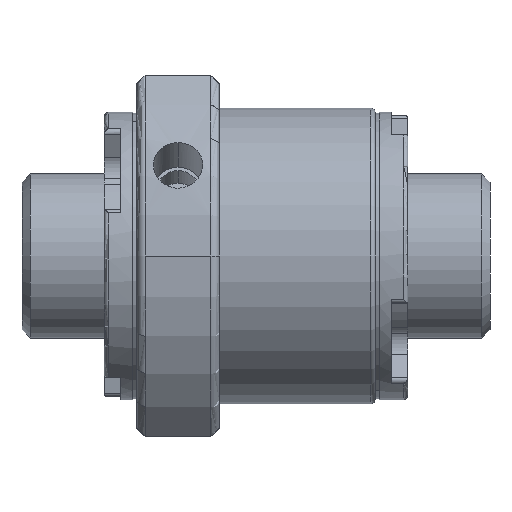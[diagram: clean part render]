
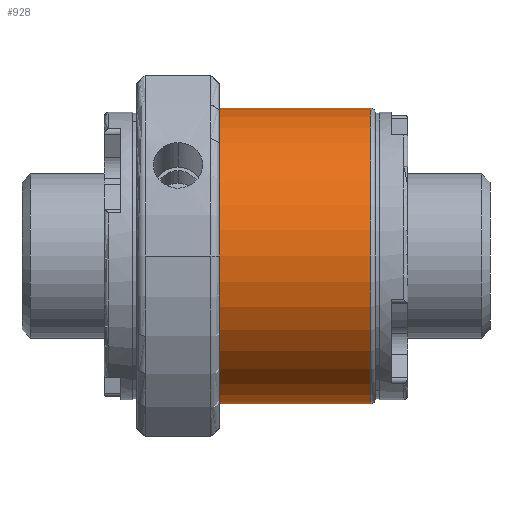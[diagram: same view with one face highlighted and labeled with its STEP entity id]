
A CAD part, front view. The second image highlights one B-rep face of the part: STEP entity #928.
In plain terms, the highlighted cylindrical face has radius 18 mm (diameter 36 mm), a partial arc.
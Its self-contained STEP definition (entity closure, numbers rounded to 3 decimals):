
#172 = ORIENTED_EDGE ( 'NONE', *, *, #836, .T. ) ;
#197 = CIRCLE ( 'NONE', #771, 18. ) ;
#446 = DIRECTION ( 'NONE',  ( -1., 0., 0. ) ) ;
#555 = AXIS2_PLACEMENT_3D ( 'NONE', #3139, #7374, #6481 ) ;
#771 = AXIS2_PLACEMENT_3D ( 'NONE', #4617, #2839, #1667 ) ;
#836 = EDGE_CURVE ( 'NONE', #1782, #6226, #2879, .T. ) ;
#928 = ADVANCED_FACE ( 'NONE', ( #4757 ), #4953, .T. ) ;
#1017 = CARTESIAN_POINT ( 'NONE',  ( 32.5, 0., -18. ) ) ;
#1667 = DIRECTION ( 'NONE',  ( 0., -1., 0. ) ) ;
#1740 = ORIENTED_EDGE ( 'NONE', *, *, #4995, .T. ) ;
#1756 = VECTOR ( 'NONE', #7084, 1000. ) ;
#1782 = VERTEX_POINT ( 'NONE', #4136 ) ;
#2437 = ORIENTED_EDGE ( 'NONE', *, *, #7547, .F. ) ;
#2839 = DIRECTION ( 'NONE',  ( -1., 0., 0. ) ) ;
#2879 = LINE ( 'NONE', #6795, #4000 ) ;
#3015 = EDGE_LOOP ( 'NONE', ( #4810, #1740, #172, #2437 ) ) ;
#3137 = VERTEX_POINT ( 'NONE', #1017 ) ;
#3139 = CARTESIAN_POINT ( 'NONE',  ( 0., 0., 0. ) ) ;
#3698 = AXIS2_PLACEMENT_3D ( 'NONE', #5179, #446, #5274 ) ;
#3733 = CIRCLE ( 'NONE', #3698, 18. ) ;
#4000 = VECTOR ( 'NONE', #6374, 1000. ) ;
#4136 = CARTESIAN_POINT ( 'NONE',  ( 32.5, 0., 18. ) ) ;
#4523 = VERTEX_POINT ( 'NONE', #5978 ) ;
#4617 = CARTESIAN_POINT ( 'NONE',  ( 14., 0., 0. ) ) ;
#4757 = FACE_OUTER_BOUND ( 'NONE', #3015, .T. ) ;
#4810 = ORIENTED_EDGE ( 'NONE', *, *, #6883, .F. ) ;
#4953 = CYLINDRICAL_SURFACE ( 'NONE', #555, 18. ) ;
#4965 = LINE ( 'NONE', #5819, #1756 ) ;
#4995 = EDGE_CURVE ( 'NONE', #3137, #1782, #3733, .T. ) ;
#5132 = CARTESIAN_POINT ( 'NONE',  ( 14., 0., 18. ) ) ;
#5179 = CARTESIAN_POINT ( 'NONE',  ( 32.5, 0., 0. ) ) ;
#5274 = DIRECTION ( 'NONE',  ( 0., 0., 1. ) ) ;
#5819 = CARTESIAN_POINT ( 'NONE',  ( 0., 0., -18. ) ) ;
#5978 = CARTESIAN_POINT ( 'NONE',  ( 14., 0., -18. ) ) ;
#6226 = VERTEX_POINT ( 'NONE', #5132 ) ;
#6374 = DIRECTION ( 'NONE',  ( -1., 0., 0. ) ) ;
#6481 = DIRECTION ( 'NONE',  ( 0., 0., 1. ) ) ;
#6795 = CARTESIAN_POINT ( 'NONE',  ( 0., 0., 18. ) ) ;
#6883 = EDGE_CURVE ( 'NONE', #3137, #4523, #4965, .T. ) ;
#7084 = DIRECTION ( 'NONE',  ( -1., 0., 0. ) ) ;
#7374 = DIRECTION ( 'NONE',  ( -1., 0., 0. ) ) ;
#7547 = EDGE_CURVE ( 'NONE', #4523, #6226, #197, .T. ) ;
